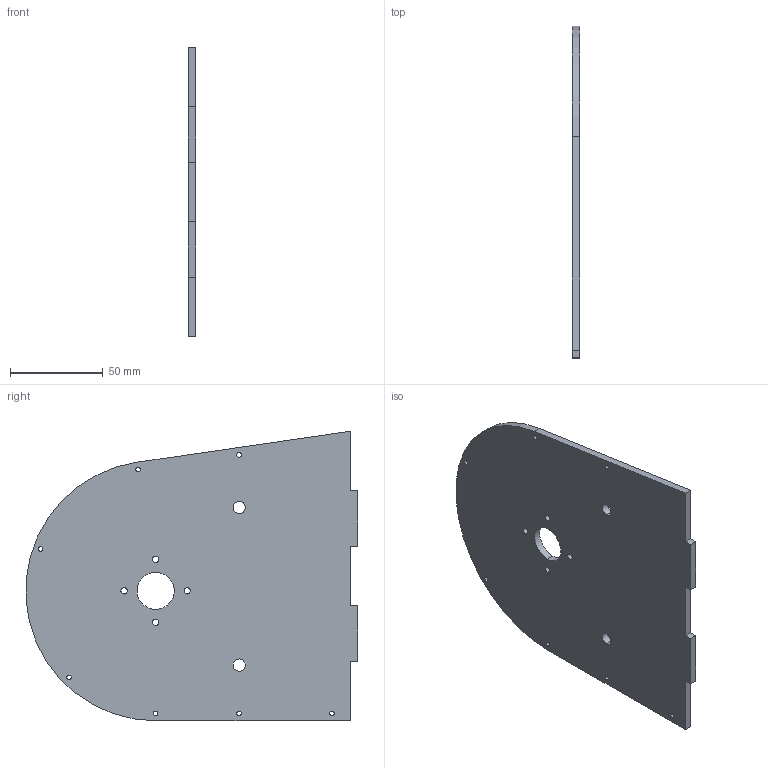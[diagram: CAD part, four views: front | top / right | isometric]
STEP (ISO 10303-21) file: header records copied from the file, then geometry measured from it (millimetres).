
FILE_DESCRIPTION (( 'STEP AP203' ), '1' );
FILE_NAME ('E-Mittelteil_Lager.STEP', '2026-04-21T19:33:11', ( '' ), ( '' ), 'SwSTEP 2.0', 'SolidWorks 2025', '' );
FILE_SCHEMA (( 'CONFIG_CONTROL_DESIGN' ));
Length unit declared in the file: millimetre
Products named in the file (1): E-Mittelteil_Lager
Bounding box: 4 x 178.82 x 156 mm (x, y, z)
Volume: 92259 mm3; surface area: 49349.9 mm2
Topology: 1 solids, 1 shells, 42 faces, 120 edges, 80 vertices
Faces by surface type: cylinder 29, plane 13
Entity records: 1535 total; most frequent: DIRECTION 264, CARTESIAN_POINT 243, ORIENTED_EDGE 240, EDGE_CURVE 120, AXIS2_PLACEMENT_3D 101, VERTEX_POINT 80, EDGE_LOOP 70, LINE 62
